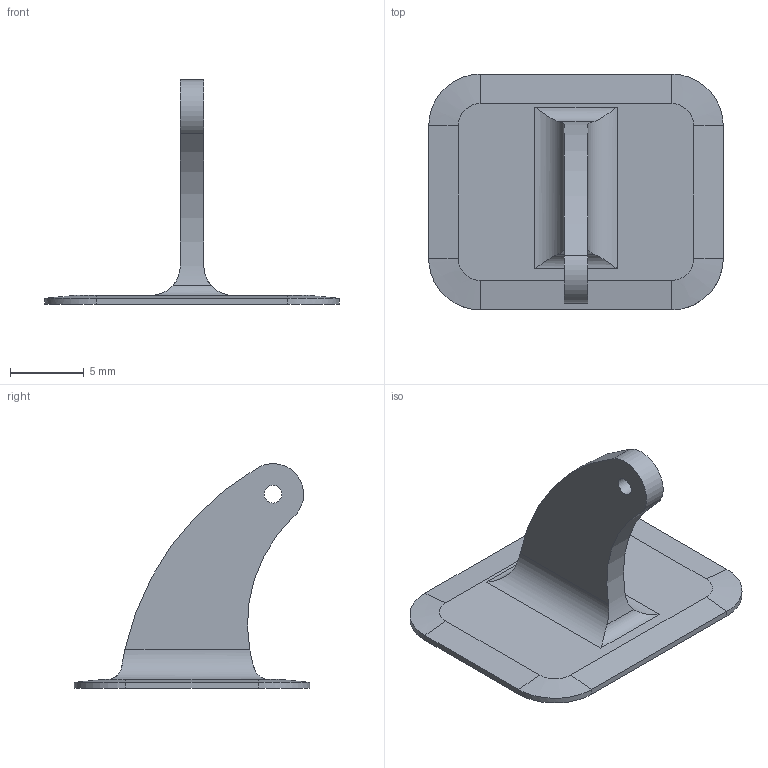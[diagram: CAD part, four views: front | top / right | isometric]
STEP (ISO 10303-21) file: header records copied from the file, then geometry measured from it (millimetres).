
FILE_DESCRIPTION(/* description */ (''),/* implementation_level */ '2;1');
FILE_NAME(/* name */ '',/* time_stamp */ '2026-08-05T11:45:15+03:00',/* author */ (''),/* organization */ (''),/* preprocessor_version */ 'ST-DEVELOPER v20.1',/* originating_system */ 'Autodesk Translation Framework v15.8.0.0',/* authorisation */ '');
FILE_SCHEMA (('AUTOMOTIVE_DESIGN { 1 0 10303 214 3 1 1 }'));
Length unit declared in the file: millimetre
Products named in the file (2): Engine_pylon; Сontrol_horn_big
Assembly tree (1 placements, depth 2):
  Engine_pylon
    Сontrol_horn_big
Bounding box: 20 x 16 x 15.25 mm (x, y, z)
Volume: 350 mm3; surface area: 879.7 mm2
Topology: 1 solids, 1 shells, 28 faces, 67 edges, 42 vertices
Faces by surface type: cylinder 12, plane 12, bspline 2, cone 2
Full cylindrical faces by diameter (mm): 1.2 x1
Entity records: 972 total; most frequent: CARTESIAN_POINT 290, ORIENTED_EDGE 134, DIRECTION 125, EDGE_CURVE 67, AXIS2_PLACEMENT_3D 45, VERTEX_POINT 42, LINE 35, VECTOR 35
